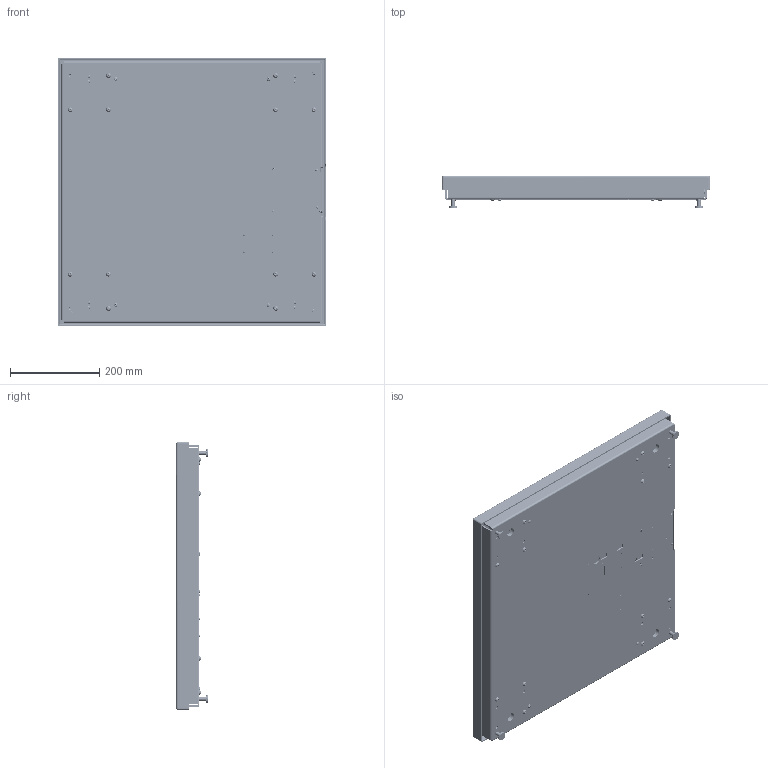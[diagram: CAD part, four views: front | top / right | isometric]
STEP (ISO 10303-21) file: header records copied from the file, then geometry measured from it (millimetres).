
FILE_DESCRIPTION (( 'STEP AP214' ), '1' );
FILE_NAME ('E-SCALE-6610-2424-1300.STEP', '2019-08-29T22:50:40', ( '' ), ( '' ), 'SwSTEP 2.0', 'SolidWorks 2017', '' );
FILE_SCHEMA (( 'AUTOMOTIVE_DESIGN' ));
Length unit declared in the file: millimetre
Products named in the file (57): 0075230_91780A198; 0075309; 0075200_93505A451; 0074904; 0075232_80-001903; flat washer type a selected narrow_ai_Selected Narrow FW 0.125; 0075174_7; 0075198; 0530-0854-XX-0; 0075304_42-000189; 0075295; 0075293; flat head screw_ai_CR-FHMS 0.164-32x0.875x0.875-N-A2.70; 0075287_C2 CHIP; 2814-T011_90631A005; 2814-0098-0_90633A007; 0530-0853-01-0; machine screw nut hex_ai_MSHXNUT 0.3125-18-D-N; 0530-0856-01-0; 0078239; 0535-0567-02-0 WO Ethernet Port; 0074532; 0075172_A7; 2815-0169-0_91780A521; 0074531; Amphenol_RJHSE-5080-02-REVT1; 0075290; 0075294; red_green_LED; 0074757_Modified By Hardy; 0075175_84-001611; 0075173_B7; lock washer spring regular_ai_Regular LW 0.112; 2143-T013; 2140-0144-09-0; 0074915_Modified By Hardy_Default<As Machined>; 0018546; 2815-0168-0_91780A534; Chassis fastener Winchester Electronics A1591B; 0075233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
Assembly tree (122 placements, depth 4):
  E-SCALE-6610-2424-1300
    0074904
      0074915_Modified By Hardy_Default<As Machined>
      0074918  x4
      0078239
    0075309
    0075175_84-001611  x4
      0075172_A7
      0075174_7
      0075173_B7
    machine screw nut hex_ai_MSHXNUT 0.3125-18-D-N  x4
    0074757_Modified By Hardy
    0075198  x4
    0075200_93505A451  x4
    0075290
      0075233
      0018546  x4
      0075287_C2 CHIP
      0075295  x4
        0075294
        0075293
    pan cross head_ai_CR-PHMS 0.164-32x0.3125x0.3125-N-A2.70  x4
    0074533  x4
      0074532
      socket head cap screw_am_B18.3.1M - 8 x 1.25 x 20 Hex SHCS -- 20NHX-A2.70
      0074531
      0077452
    0075231_PBSH-600kg 600 X 600  x4
      0075230_91780A198
      0075232_80-001903
      flat head screw_ai_CR-FHMS 0.164-32x0.875x0.875-N-A2.70
      pan cross head_ai_CR-PHMS 0.164-32x0.3125x0.3125-N-A2.70
    socket button head cap screw_am_B18.3.4M - 6 x 1.0 x 20 SBHCS --N-A2.70  x12
    0075304_42-000189
    2814-0098-0_90633A007  x2
    2143-T004
    2143-T013
    flat washer type a selected narrow_ai_Selected Narrow FW 0.125  x5
    2814-T011_90631A005
    0514-0242-01-0_Rev A
    2817-0272-0_90402A146
    0535-0567-02-0 WO Ethernet Port
      6610 Bare Board
      Chassis fastener Winchester Electronics A1591B  x2
      red_green_LED
      5126-0009-0
      Amphenol_RJHSE-5080-02-REVT1
      2140-0144-09-0
        mcv_1.5-9-g-3.81_1
      Phoenix_1803646
      Bivar Spacer_TO-201-040  x4
    pan cross head_ai_CR-PHMS 0.112-40x0.5x0.5-N  x4
    2815-0169-0_91780A521  x7
    2815-0168-0_91780A534
    lock washer spring regular_ai_Regular LW 0.112  x4
    0530-0853-01-0
    0530-0856-01-0
    0530-0854-XX-0
Bounding box: 600.13 x 71.16 x 600 mm (x, y, z)
Volume: 3249648.7 mm3; surface area: 2048431.7 mm2
Topology: 676 solids, 680 shells, 18060 faces, 46461 edges, 30218 vertices
Faces by surface type: plane 9339, bspline 5056, cylinder 2495, cone 966, torus 150, sphere 54
Entity records: 620326 total; most frequent: CARTESIAN_POINT 170165, ORIENTED_EDGE 75448, DIRECTION 48454, EDGE_CURVE 37729, VERTEX_POINT 24843, LINE 23548, VECTOR 23548, EDGE_LOOP 15456
